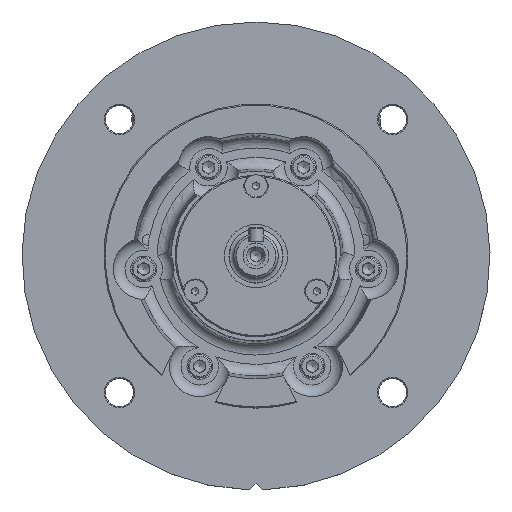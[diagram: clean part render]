
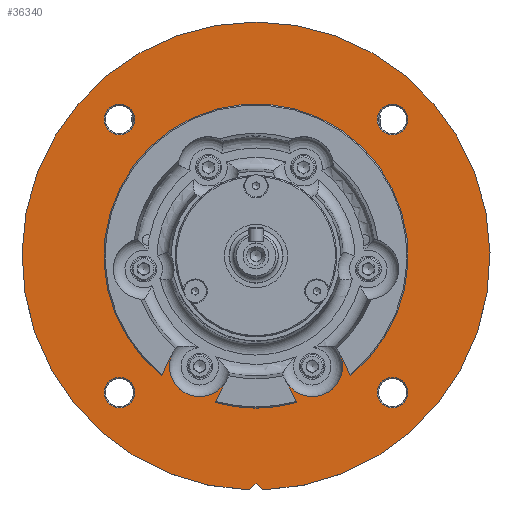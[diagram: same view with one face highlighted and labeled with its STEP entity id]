
A CAD part, top view. The second image highlights one B-rep face of the part: STEP entity #36340.
In plain terms, the highlighted planar face has unit normal (0, 0, 1).
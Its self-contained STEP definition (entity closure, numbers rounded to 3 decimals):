
#187 = CIRCLE ( 'NONE', #919, 13. ) ;
#482 = ORIENTED_EDGE ( 'NONE', *, *, #44823, .T. ) ;
#648 = EDGE_CURVE ( 'NONE', #7024, #34291, #45790, .T. ) ;
#919 = AXIS2_PLACEMENT_3D ( 'NONE', #42293, #42536, #10045 ) ;
#1391 = AXIS2_PLACEMENT_3D ( 'NONE', #21383, #43870, #39616 ) ;
#2163 = EDGE_LOOP ( 'NONE', ( #13882 ) ) ;
#2818 = FACE_BOUND ( 'NONE', #2163, .T. ) ;
#2864 = ORIENTED_EDGE ( 'NONE', *, *, #648, .T. ) ;
#2891 = CARTESIAN_POINT ( 'NONE',  ( 13.425, -49.13, 77.8 ) ) ;
#3284 = EDGE_CURVE ( 'NONE', #13655, #43142, #43162, .T. ) ;
#3477 = ORIENTED_EDGE ( 'NONE', *, *, #16435, .T. ) ;
#3533 = EDGE_CURVE ( 'NONE', #11032, #11032, #6592, .T. ) ;
#4338 = AXIS2_PLACEMENT_3D ( 'NONE', #36729, #39348, #18284 ) ;
#5271 = CARTESIAN_POINT ( 'NONE',  ( 36.331, -37.451, 77.8 ) ) ;
#5674 = DIRECTION ( 'NONE',  ( -0.454, -0.891, 0. ) ) ;
#6191 = EDGE_CURVE ( 'NONE', #11269, #11269, #33110, .T. ) ;
#6592 = CIRCLE ( 'NONE', #33115, 6.5 ) ;
#7024 = VERTEX_POINT ( 'NONE', #7931 ) ;
#7476 = AXIS2_PLACEMENT_3D ( 'NONE', #14090, #11196, #28516 ) ;
#7483 = CARTESIAN_POINT ( 'NONE',  ( 40.395, -45.422, 77.8 ) ) ;
#7511 = DIRECTION ( 'NONE',  ( 1., 0., 0. ) ) ;
#7664 = VECTOR ( 'NONE', #5674, 1000. ) ;
#7931 = CARTESIAN_POINT ( 'NONE',  ( -40.395, -45.422, 77.8 ) ) ;
#8180 = LINE ( 'NONE', #7483, #18219 ) ;
#8318 = VECTOR ( 'NONE', #32558, 1000. ) ;
#8413 = CARTESIAN_POINT ( 'NONE',  ( 0., 5.501, 77.8 ) ) ;
#9377 = ORIENTED_EDGE ( 'NONE', *, *, #34437, .T. ) ;
#9489 = DIRECTION ( 'NONE',  ( 0., 0., 1. ) ) ;
#10045 = DIRECTION ( 'NONE',  ( 1., 0., 0. ) ) ;
#10389 = DIRECTION ( 'NONE',  ( 1., 0., 0. ) ) ;
#10441 = DIRECTION ( 'NONE',  ( 0.454, 0.891, 0. ) ) ;
#10553 = AXIS2_PLACEMENT_3D ( 'NONE', #46011, #9489, #23956 ) ;
#11032 = VERTEX_POINT ( 'NONE', #33337 ) ;
#11196 = DIRECTION ( 'NONE',  ( 0., 0., -1. ) ) ;
#11269 = VERTEX_POINT ( 'NONE', #21497 ) ;
#13057 = ORIENTED_EDGE ( 'NONE', *, *, #41861, .T. ) ;
#13455 = AXIS2_PLACEMENT_3D ( 'NONE', #25095, #43586, #10389 ) ;
#13655 = VERTEX_POINT ( 'NONE', #43526 ) ;
#13882 = ORIENTED_EDGE ( 'NONE', *, *, #3533, .T. ) ;
#14090 = CARTESIAN_POINT ( 'NONE',  ( 0., 5.501, 77.8 ) ) ;
#14480 = CARTESIAN_POINT ( 'NONE',  ( -13.425, -49.13, 77.8 ) ) ;
#14863 = DIRECTION ( 'NONE',  ( 0., 0., 1. ) ) ;
#14879 = CARTESIAN_POINT ( 'NONE',  ( 2.956, -94.455, 77.8 ) ) ;
#15405 = ORIENTED_EDGE ( 'NONE', *, *, #6191, .T. ) ;
#16435 = EDGE_CURVE ( 'NONE', #22958, #44531, #42974, .T. ) ;
#16695 = VERTEX_POINT ( 'NONE', #35036 ) ;
#17281 = CIRCLE ( 'NONE', #4338, 6.5 ) ;
#17349 = PLANE ( 'NONE',  #10553 ) ;
#17754 = DIRECTION ( 'NONE',  ( 1., 0., 0. ) ) ;
#18219 = VECTOR ( 'NONE', #36419, 1000. ) ;
#18266 = EDGE_LOOP ( 'NONE', ( #15405 ) ) ;
#18284 = DIRECTION ( 'NONE',  ( 1., 0., 0. ) ) ;
#19339 = CARTESIAN_POINT ( 'NONE',  ( -36.331, -37.451, 77.8 ) ) ;
#19648 = VERTEX_POINT ( 'NONE', #27630 ) ;
#19994 = ORIENTED_EDGE ( 'NONE', *, *, #44142, .T. ) ;
#20036 = AXIS2_PLACEMENT_3D ( 'NONE', #8413, #25706, #22877 ) ;
#20189 = CARTESIAN_POINT ( 'NONE',  ( -51.836, 63.838, 77.8 ) ) ;
#20307 = VECTOR ( 'NONE', #30148, 1000. ) ;
#20364 = CIRCLE ( 'NONE', #7476, 65. ) ;
#20628 = DIRECTION ( 'NONE',  ( 1., 0., 0. ) ) ;
#21383 = CARTESIAN_POINT ( 'NONE',  ( 58.336, -52.835, 77.8 ) ) ;
#21472 = EDGE_LOOP ( 'NONE', ( #19994 ) ) ;
#21497 = CARTESIAN_POINT ( 'NONE',  ( 64.836, 63.838, 77.8 ) ) ;
#22019 = VECTOR ( 'NONE', #42756, 1000. ) ;
#22095 = EDGE_CURVE ( 'NONE', #29371, #7024, #45297, .T. ) ;
#22429 = ORIENTED_EDGE ( 'NONE', *, *, #22095, .T. ) ;
#22630 = CIRCLE ( 'NONE', #34753, 13. ) ;
#22689 = CARTESIAN_POINT ( 'NONE',  ( -58.336, -52.835, 77.8 ) ) ;
#22790 = FACE_OUTER_BOUND ( 'NONE', #28378, .T. ) ;
#22876 = AXIS2_PLACEMENT_3D ( 'NONE', #39513, #14863, #17754 ) ;
#22877 = DIRECTION ( 'NONE',  ( 1., 0., 0. ) ) ;
#22958 = VERTEX_POINT ( 'NONE', #26335 ) ;
#23407 = ORIENTED_EDGE ( 'NONE', *, *, #24460, .T. ) ;
#23956 = DIRECTION ( 'NONE',  ( 1., 0., 0. ) ) ;
#24460 = EDGE_CURVE ( 'NONE', #43142, #29371, #187, .T. ) ;
#24650 = ORIENTED_EDGE ( 'NONE', *, *, #25377, .T. ) ;
#25095 = CARTESIAN_POINT ( 'NONE',  ( 58.336, 63.838, 77.8 ) ) ;
#25322 = CARTESIAN_POINT ( 'NONE',  ( 13.425, -49.13, 77.8 ) ) ;
#25342 = CARTESIAN_POINT ( 'NONE',  ( 40.395, -45.422, 77.8 ) ) ;
#25366 = CARTESIAN_POINT ( 'NONE',  ( -17.49, -57.101, 77.8 ) ) ;
#25377 = EDGE_CURVE ( 'NONE', #46369, #46369, #28694, .T. ) ;
#25703 = EDGE_CURVE ( 'NONE', #40914, #39562, #22630, .T. ) ;
#25706 = DIRECTION ( 'NONE',  ( 0., 0., -1. ) ) ;
#26335 = CARTESIAN_POINT ( 'NONE',  ( 0., -91.499, 77.8 ) ) ;
#26741 = ORIENTED_EDGE ( 'NONE', *, *, #3284, .T. ) ;
#27630 = CARTESIAN_POINT ( 'NONE',  ( -2.956, -94.455, 77.8 ) ) ;
#28202 = DIRECTION ( 'NONE',  ( 0., 0., -1. ) ) ;
#28378 = EDGE_LOOP ( 'NONE', ( #9377, #3477, #29023 ) ) ;
#28508 = CARTESIAN_POINT ( 'NONE',  ( 0., -91.499, 77.8 ) ) ;
#28516 = DIRECTION ( 'NONE',  ( 1., 0., 0. ) ) ;
#28588 = EDGE_CURVE ( 'NONE', #44531, #19648, #34898, .T. ) ;
#28694 = CIRCLE ( 'NONE', #1391, 6.5 ) ;
#29023 = ORIENTED_EDGE ( 'NONE', *, *, #28588, .T. ) ;
#29371 = VERTEX_POINT ( 'NONE', #45928 ) ;
#29592 = DIRECTION ( 'NONE',  ( 0., 0., -1. ) ) ;
#30148 = DIRECTION ( 'NONE',  ( 0.707, 0.707, 0. ) ) ;
#31134 = EDGE_LOOP ( 'NONE', ( #2864, #46073, #43271, #482, #13057, #26741, #23407, #22429 ) ) ;
#31806 = FACE_BOUND ( 'NONE', #21472, .T. ) ;
#32558 = DIRECTION ( 'NONE',  ( 0.707, -0.707, 0. ) ) ;
#33016 = LINE ( 'NONE', #43898, #20307 ) ;
#33082 = VECTOR ( 'NONE', #10441, 1000. ) ;
#33110 = CIRCLE ( 'NONE', #13455, 6.5 ) ;
#33115 = AXIS2_PLACEMENT_3D ( 'NONE', #22689, #29592, #7511 ) ;
#33337 = CARTESIAN_POINT ( 'NONE',  ( -51.836, -52.835, 77.8 ) ) ;
#34291 = VERTEX_POINT ( 'NONE', #25342 ) ;
#34437 = EDGE_CURVE ( 'NONE', #19648, #22958, #33016, .T. ) ;
#34753 = AXIS2_PLACEMENT_3D ( 'NONE', #35089, #28202, #20628 ) ;
#34898 = CIRCLE ( 'NONE', #22876, 100. ) ;
#35036 = CARTESIAN_POINT ( 'NONE',  ( 17.49, -57.101, 77.8 ) ) ;
#35089 = CARTESIAN_POINT ( 'NONE',  ( 24., -41.568, 77.8 ) ) ;
#36340 = ADVANCED_FACE ( 'NONE', ( #22790, #38416, #41987, #42688, #2818, #31806 ), #17349, .T. ) ;
#36419 = DIRECTION ( 'NONE',  ( -0.454, 0.891, 0. ) ) ;
#36729 = CARTESIAN_POINT ( 'NONE',  ( -58.336, 63.838, 77.8 ) ) ;
#37425 = EDGE_LOOP ( 'NONE', ( #24650 ) ) ;
#38416 = FACE_BOUND ( 'NONE', #31134, .T. ) ;
#38981 = CARTESIAN_POINT ( 'NONE',  ( 64.836, -52.835, 77.8 ) ) ;
#39348 = DIRECTION ( 'NONE',  ( 0., 0., -1. ) ) ;
#39513 = CARTESIAN_POINT ( 'NONE',  ( 0., 5.501, 77.8 ) ) ;
#39562 = VERTEX_POINT ( 'NONE', #25322 ) ;
#39616 = DIRECTION ( 'NONE',  ( 1., 0., 0. ) ) ;
#40914 = VERTEX_POINT ( 'NONE', #5271 ) ;
#41289 = VERTEX_POINT ( 'NONE', #20189 ) ;
#41861 = EDGE_CURVE ( 'NONE', #16695, #13655, #20364, .T. ) ;
#41987 = FACE_BOUND ( 'NONE', #18266, .T. ) ;
#42293 = CARTESIAN_POINT ( 'NONE',  ( -24., -41.568, 77.8 ) ) ;
#42536 = DIRECTION ( 'NONE',  ( 0., 0., -1. ) ) ;
#42688 = FACE_BOUND ( 'NONE', #37425, .T. ) ;
#42756 = DIRECTION ( 'NONE',  ( 0.454, -0.891, 0. ) ) ;
#42974 = LINE ( 'NONE', #28508, #8318 ) ;
#43142 = VERTEX_POINT ( 'NONE', #14480 ) ;
#43162 = LINE ( 'NONE', #25366, #33082 ) ;
#43271 = ORIENTED_EDGE ( 'NONE', *, *, #25703, .T. ) ;
#43409 = EDGE_CURVE ( 'NONE', #34291, #40914, #8180, .T. ) ;
#43526 = CARTESIAN_POINT ( 'NONE',  ( -17.49, -57.101, 77.8 ) ) ;
#43586 = DIRECTION ( 'NONE',  ( 0., 0., -1. ) ) ;
#43870 = DIRECTION ( 'NONE',  ( 0., 0., -1. ) ) ;
#43898 = CARTESIAN_POINT ( 'NONE',  ( -2.956, -94.455, 77.8 ) ) ;
#44142 = EDGE_CURVE ( 'NONE', #41289, #41289, #17281, .T. ) ;
#44531 = VERTEX_POINT ( 'NONE', #14879 ) ;
#44823 = EDGE_CURVE ( 'NONE', #39562, #16695, #46784, .T. ) ;
#45297 = LINE ( 'NONE', #19339, #7664 ) ;
#45790 = CIRCLE ( 'NONE', #20036, 65. ) ;
#45928 = CARTESIAN_POINT ( 'NONE',  ( -36.331, -37.451, 77.8 ) ) ;
#46011 = CARTESIAN_POINT ( 'NONE',  ( 0., 5.501, 77.8 ) ) ;
#46073 = ORIENTED_EDGE ( 'NONE', *, *, #43409, .T. ) ;
#46369 = VERTEX_POINT ( 'NONE', #38981 ) ;
#46784 = LINE ( 'NONE', #2891, #22019 ) ;
